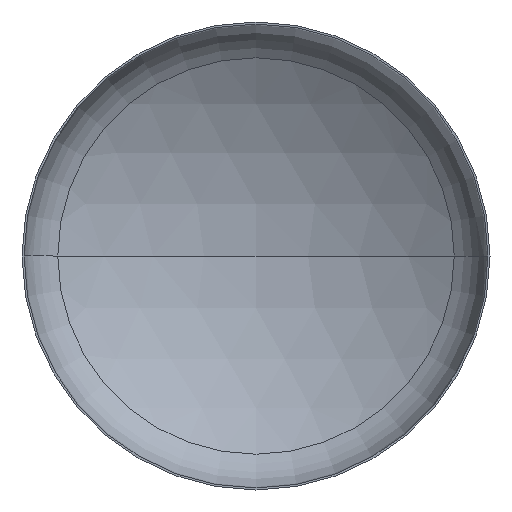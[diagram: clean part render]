
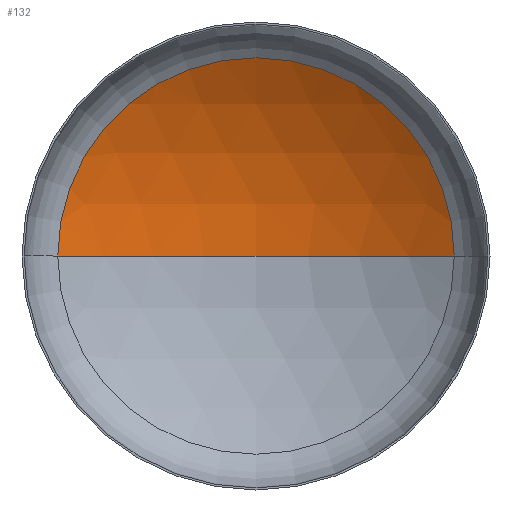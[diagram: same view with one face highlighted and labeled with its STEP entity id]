
A CAD part, front view. The second image highlights one B-rep face of the part: STEP entity #132.
In plain terms, the highlighted spherical face has radius 1280 mm.
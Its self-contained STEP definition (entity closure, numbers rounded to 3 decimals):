
#10 = ORIENTED_EDGE ( 'NONE', *, *, #359, .T. ) ;
#14 = EDGE_LOOP ( 'NONE', ( #64, #10, #49 ) ) ;
#28 = VERTEX_POINT ( 'NONE', #288 ) ;
#38 = AXIS2_PLACEMENT_3D ( 'NONE', #123, #236, #239 ) ;
#49 = ORIENTED_EDGE ( 'NONE', *, *, #369, .T. ) ;
#64 = ORIENTED_EDGE ( 'NONE', *, *, #363, .F. ) ;
#68 = VERTEX_POINT ( 'NONE', #242 ) ;
#77 = AXIS2_PLACEMENT_3D ( 'NONE', #399, #221, #171 ) ;
#84 = AXIS2_PLACEMENT_3D ( 'NONE', #379, #155, #361 ) ;
#103 = VERTEX_POINT ( 'NONE', #343 ) ;
#123 = CARTESIAN_POINT ( 'NONE',  ( 0., 232.841, 0. ) ) ;
#132 = ADVANCED_FACE ( 'NONE', ( #329 ), #338, .F. ) ;
#134 = CIRCLE ( 'NONE', #77, 1280. ) ;
#154 = AXIS2_PLACEMENT_3D ( 'NONE', #247, #330, #326 ) ;
#155 = DIRECTION ( 'NONE',  ( 0., 0., -1. ) ) ;
#171 = DIRECTION ( 'NONE',  ( 1., 0., 0. ) ) ;
#221 = DIRECTION ( 'NONE',  ( 0., 0., 1. ) ) ;
#230 = CIRCLE ( 'NONE', #84, 1280. ) ;
#236 = DIRECTION ( 'NONE',  ( 0., -1., 0. ) ) ;
#239 = DIRECTION ( 'NONE',  ( 1., 0., 0. ) ) ;
#242 = CARTESIAN_POINT ( 'NONE',  ( -677.72, 232.841, 0. ) ) ;
#247 = CARTESIAN_POINT ( 'NONE',  ( 0., -853.021, 0. ) ) ;
#288 = CARTESIAN_POINT ( 'NONE',  ( 677.72, 232.841, 0. ) ) ;
#326 = DIRECTION ( 'NONE',  ( -1., 0., 0. ) ) ;
#329 = FACE_OUTER_BOUND ( 'NONE', #14, .T. ) ;
#330 = DIRECTION ( 'NONE',  ( 0., 0., -1. ) ) ;
#338 = SPHERICAL_SURFACE ( 'NONE', #154, 1280. ) ;
#341 = CIRCLE ( 'NONE', #38, 677.72 ) ;
#343 = CARTESIAN_POINT ( 'NONE',  ( 0., 426.979, 0. ) ) ;
#359 = EDGE_CURVE ( 'NONE', #103, #28, #230, .T. ) ;
#361 = DIRECTION ( 'NONE',  ( -1., 0., 0. ) ) ;
#363 = EDGE_CURVE ( 'NONE', #103, #68, #134, .T. ) ;
#369 = EDGE_CURVE ( 'NONE', #28, #68, #341, .T. ) ;
#379 = CARTESIAN_POINT ( 'NONE',  ( 0., -853.021, 0. ) ) ;
#399 = CARTESIAN_POINT ( 'NONE',  ( 0., -853.021, 0. ) ) ;
